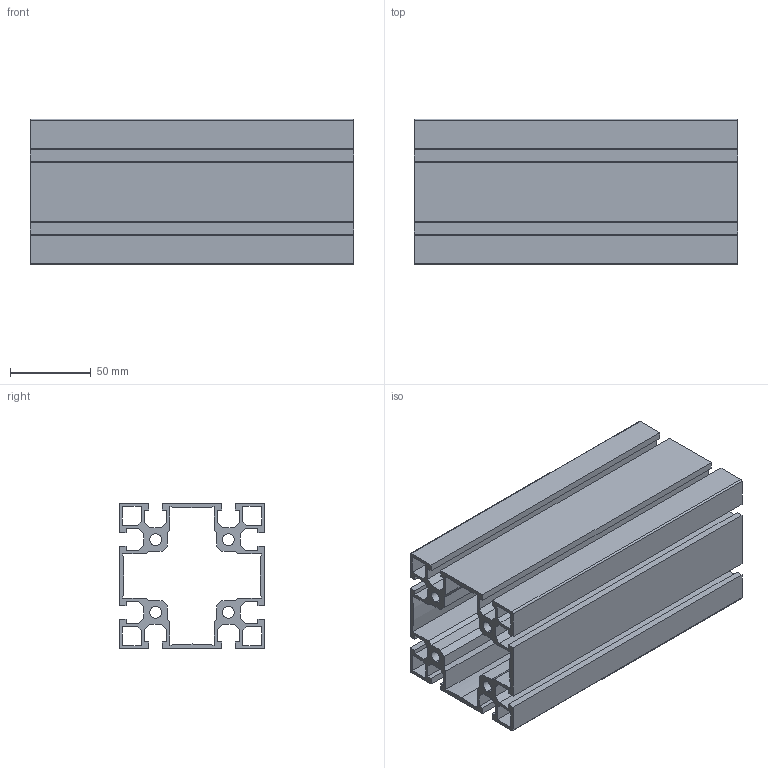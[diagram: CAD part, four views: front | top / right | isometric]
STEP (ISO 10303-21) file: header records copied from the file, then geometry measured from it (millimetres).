
FILE_DESCRIPTION (( 'STEP AP203' ), '1' );
FILE_NAME ('1.01.02.0013-profilo-alluminio-3D-90x90L-Milper.STEP', '2020-06-04T06:53:33', ( '' ), ( '' ), 'SwSTEP 2.0', 'SolidWorks 2019', '' );
FILE_SCHEMA (( 'CONFIG_CONTROL_DESIGN' ));
Length unit declared in the file: millimetre
Products named in the file (1): 1.01.02.0013-profilo-alluminio-3D-90x90L-Milper
Bounding box: 200 x 90 x 90 mm (x, y, z)
Volume: 385210.1 mm3; surface area: 255581 mm2
Topology: 1 solids, 1 shells, 151 faces, 447 edges, 298 vertices
Faces by surface type: plane 134, cylinder 17
Entity records: 5088 total; most frequent: CARTESIAN_POINT 897, ORIENTED_EDGE 894, DIRECTION 785, EDGE_CURVE 447, LINE 413, VECTOR 413, VERTEX_POINT 298, AXIS2_PLACEMENT_3D 186
